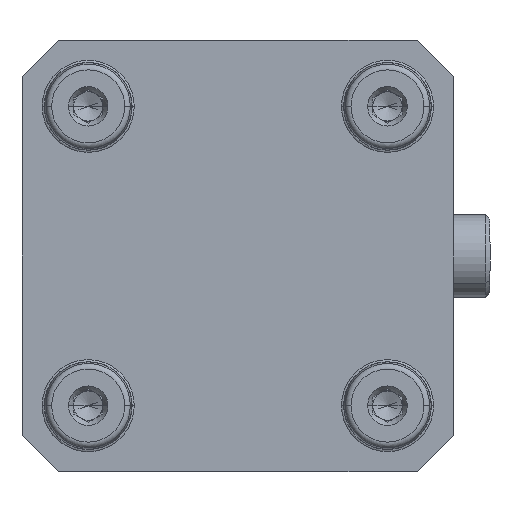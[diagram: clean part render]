
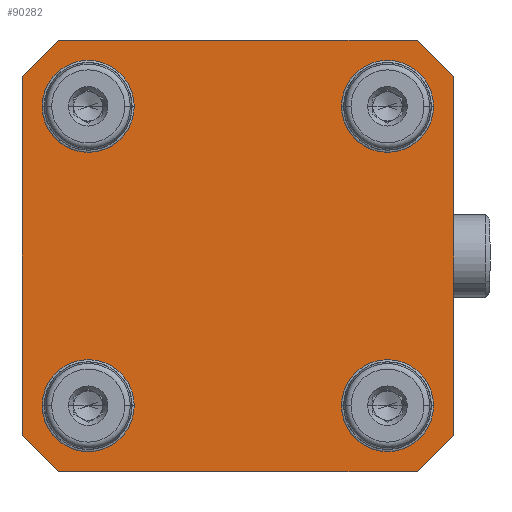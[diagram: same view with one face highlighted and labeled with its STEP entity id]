
A CAD part, front view. The second image highlights one B-rep face of the part: STEP entity #90282.
In plain terms, the highlighted planar face has unit normal (0, -1, 0).
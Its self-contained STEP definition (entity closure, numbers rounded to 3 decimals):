
#56 = DIRECTION ( 'NONE',  ( 0., -1., 0. ) ) ;
#138 = CARTESIAN_POINT ( 'NONE',  ( -26., 0., -26. ) ) ;
#335 = DIRECTION ( 'NONE',  ( 0., 0., -1. ) ) ;
#653 = DIRECTION ( 'NONE',  ( 0., 0., 1. ) ) ;
#880 = VERTEX_POINT ( 'NONE', #33809 ) ;
#2308 = VERTEX_POINT ( 'NONE', #96515 ) ;
#4460 = EDGE_LOOP ( 'NONE', ( #74586, #90434, #22073, #71335, #38619, #15399, #7901, #14046 ) ) ;
#5969 = VERTEX_POINT ( 'NONE', #38136 ) ;
#7633 = DIRECTION ( 'NONE',  ( 0., 0., 1. ) ) ;
#7901 = ORIENTED_EDGE ( 'NONE', *, *, #67377, .F. ) ;
#9006 = CARTESIAN_POINT ( 'NONE',  ( -26., 0., -19.992 ) ) ;
#9352 = EDGE_LOOP ( 'NONE', ( #61983, #37314 ) ) ;
#12214 = VECTOR ( 'NONE', #42350, 1000. ) ;
#13491 = CARTESIAN_POINT ( 'NONE',  ( 37.5, 0., 31.15 ) ) ;
#14046 = ORIENTED_EDGE ( 'NONE', *, *, #49599, .T. ) ;
#14072 = CARTESIAN_POINT ( 'NONE',  ( 26., 0., 19.992 ) ) ;
#14762 = CARTESIAN_POINT ( 'NONE',  ( -31.15, 0., 37.5 ) ) ;
#15399 = ORIENTED_EDGE ( 'NONE', *, *, #29493, .T. ) ;
#15785 = CIRCLE ( 'NONE', #19477, 6.008 ) ;
#17313 = CARTESIAN_POINT ( 'NONE',  ( 0., 0., 0. ) ) ;
#17466 = FACE_BOUND ( 'NONE', #9352, .T. ) ;
#17951 = EDGE_LOOP ( 'NONE', ( #39461, #65914 ) ) ;
#19039 = AXIS2_PLACEMENT_3D ( 'NONE', #36055, #88360, #43575 ) ;
#19477 = AXIS2_PLACEMENT_3D ( 'NONE', #89847, #45064, #335 ) ;
#19628 = LINE ( 'NONE', #70732, #57114 ) ;
#22073 = ORIENTED_EDGE ( 'NONE', *, *, #23344, .F. ) ;
#22362 = EDGE_CURVE ( 'NONE', #38292, #89508, #29958, .T. ) ;
#23344 = EDGE_CURVE ( 'NONE', #27074, #79555, #84633, .T. ) ;
#23470 = CARTESIAN_POINT ( 'NONE',  ( -34.325, 0., 34.325 ) ) ;
#25633 = LINE ( 'NONE', #36053, #45582 ) ;
#25804 = ORIENTED_EDGE ( 'NONE', *, *, #75267, .F. ) ;
#25886 = CIRCLE ( 'NONE', #51553, 6.008 ) ;
#25990 = LINE ( 'NONE', #36830, #45948 ) ;
#26570 = DIRECTION ( 'NONE',  ( 0., -1., 0. ) ) ;
#27074 = VERTEX_POINT ( 'NONE', #14762 ) ;
#27297 = VECTOR ( 'NONE', #87488, 1000. ) ;
#27867 = DIRECTION ( 'NONE',  ( 0., -1., 0. ) ) ;
#28582 = LINE ( 'NONE', #85003, #68450 ) ;
#28826 = DIRECTION ( 'NONE',  ( 0., -1., 0. ) ) ;
#29493 = EDGE_CURVE ( 'NONE', #72509, #46569, #25633, .T. ) ;
#29958 = CIRCLE ( 'NONE', #19039, 6.008 ) ;
#31488 = AXIS2_PLACEMENT_3D ( 'NONE', #72687, #27867, #80198 ) ;
#32086 = LINE ( 'NONE', #34829, #12214 ) ;
#32365 = CARTESIAN_POINT ( 'NONE',  ( -37.5, 0., 31.15 ) ) ;
#32654 = DIRECTION ( 'NONE',  ( 0., 0., -1. ) ) ;
#32708 = DIRECTION ( 'NONE',  ( 0., -1., 0. ) ) ;
#32769 = VECTOR ( 'NONE', #653, 1000. ) ;
#32995 = ORIENTED_EDGE ( 'NONE', *, *, #87081, .F. ) ;
#33587 = CARTESIAN_POINT ( 'NONE',  ( 37.5, 0., -31.15 ) ) ;
#33809 = CARTESIAN_POINT ( 'NONE',  ( 31.15, 0., -37.5 ) ) ;
#34829 = CARTESIAN_POINT ( 'NONE',  ( -37.5, 0., -37.5 ) ) ;
#35175 = CARTESIAN_POINT ( 'NONE',  ( -37.5, 0., 37.5 ) ) ;
#35763 = CARTESIAN_POINT ( 'NONE',  ( 26., 0., -19.992 ) ) ;
#36053 = CARTESIAN_POINT ( 'NONE',  ( -34.325, 0., -34.325 ) ) ;
#36055 = CARTESIAN_POINT ( 'NONE',  ( 26., 0., 26. ) ) ;
#36830 = CARTESIAN_POINT ( 'NONE',  ( 34.325, 0., 34.325 ) ) ;
#37314 = ORIENTED_EDGE ( 'NONE', *, *, #51006, .F. ) ;
#37377 = FACE_BOUND ( 'NONE', #50027, .T. ) ;
#37868 = CARTESIAN_POINT ( 'NONE',  ( -37.5, 0., 37.5 ) ) ;
#37990 = AXIS2_PLACEMENT_3D ( 'NONE', #138, #52384, #7633 ) ;
#38136 = CARTESIAN_POINT ( 'NONE',  ( 26., 0., -32.008 ) ) ;
#38292 = VERTEX_POINT ( 'NONE', #14072 ) ;
#38470 = VERTEX_POINT ( 'NONE', #32365 ) ;
#38619 = ORIENTED_EDGE ( 'NONE', *, *, #82436, .F. ) ;
#39461 = ORIENTED_EDGE ( 'NONE', *, *, #67062, .F. ) ;
#42350 = DIRECTION ( 'NONE',  ( -1., 0., 0. ) ) ;
#43575 = DIRECTION ( 'NONE',  ( 0., 0., 1. ) ) ;
#44784 = CARTESIAN_POINT ( 'NONE',  ( -26., 0., 26. ) ) ;
#45064 = DIRECTION ( 'NONE',  ( 0., -1., 0. ) ) ;
#45582 = VECTOR ( 'NONE', #80846, 1000. ) ;
#45948 = VECTOR ( 'NONE', #81625, 1000. ) ;
#46569 = VERTEX_POINT ( 'NONE', #46813 ) ;
#46813 = CARTESIAN_POINT ( 'NONE',  ( -31.15, 0., -37.5 ) ) ;
#47204 = CIRCLE ( 'NONE', #62733, 6.008 ) ;
#47763 = DIRECTION ( 'NONE',  ( 0.707, 0., 0.707 ) ) ;
#49599 = EDGE_CURVE ( 'NONE', #880, #50492, #28582, .T. ) ;
#49956 = CARTESIAN_POINT ( 'NONE',  ( -26., 0., 19.992 ) ) ;
#50027 = EDGE_LOOP ( 'NONE', ( #32995, #62927 ) ) ;
#50492 = VERTEX_POINT ( 'NONE', #33587 ) ;
#50514 = CIRCLE ( 'NONE', #31488, 6.008 ) ;
#50947 = EDGE_CURVE ( 'NONE', #87892, #2308, #50514, .T. ) ;
#51006 = EDGE_CURVE ( 'NONE', #84265, #5969, #25886, .T. ) ;
#51553 = AXIS2_PLACEMENT_3D ( 'NONE', #73667, #28826, #81184 ) ;
#52324 = DIRECTION ( 'NONE',  ( 0., 0., -1. ) ) ;
#52384 = DIRECTION ( 'NONE',  ( 0., -1., 0. ) ) ;
#52861 = CARTESIAN_POINT ( 'NONE',  ( 31.15, 0., 37.5 ) ) ;
#53260 = DIRECTION ( 'NONE',  ( -0.707, 0., -0.707 ) ) ;
#53575 = CIRCLE ( 'NONE', #84635, 6.008 ) ;
#54008 = AXIS2_PLACEMENT_3D ( 'NONE', #44784, #56, #52324 ) ;
#54292 = VERTEX_POINT ( 'NONE', #49956 ) ;
#54960 = FACE_OUTER_BOUND ( 'NONE', #4460, .T. ) ;
#57114 = VECTOR ( 'NONE', #63274, 1000. ) ;
#57681 = CIRCLE ( 'NONE', #54008, 6.008 ) ;
#60744 = CIRCLE ( 'NONE', #37990, 6.008 ) ;
#61141 = VERTEX_POINT ( 'NONE', #61307 ) ;
#61307 = CARTESIAN_POINT ( 'NONE',  ( -26., 0., 32.008 ) ) ;
#61983 = ORIENTED_EDGE ( 'NONE', *, *, #91658, .F. ) ;
#62733 = AXIS2_PLACEMENT_3D ( 'NONE', #77534, #32708, #85020 ) ;
#62927 = ORIENTED_EDGE ( 'NONE', *, *, #50947, .F. ) ;
#63274 = DIRECTION ( 'NONE',  ( 0., 0., -1. ) ) ;
#65635 = EDGE_LOOP ( 'NONE', ( #73268, #25804 ) ) ;
#65914 = ORIENTED_EDGE ( 'NONE', *, *, #75698, .F. ) ;
#67062 = EDGE_CURVE ( 'NONE', #54292, #61141, #15785, .T. ) ;
#67102 = EDGE_CURVE ( 'NONE', #27074, #38470, #73076, .T. ) ;
#67377 = EDGE_CURVE ( 'NONE', #880, #46569, #32086, .T. ) ;
#68450 = VECTOR ( 'NONE', #47763, 1000. ) ;
#68455 = VERTEX_POINT ( 'NONE', #13491 ) ;
#69629 = EDGE_CURVE ( 'NONE', #68455, #50492, #19628, .T. ) ;
#69945 = PLANE ( 'NONE',  #85795 ) ;
#70711 = VECTOR ( 'NONE', #53260, 1000. ) ;
#70732 = CARTESIAN_POINT ( 'NONE',  ( 37.5, 0., 37.5 ) ) ;
#71335 = ORIENTED_EDGE ( 'NONE', *, *, #67102, .T. ) ;
#71370 = CARTESIAN_POINT ( 'NONE',  ( 26., 0., -26. ) ) ;
#72509 = VERTEX_POINT ( 'NONE', #80957 ) ;
#72563 = LINE ( 'NONE', #37868, #32769 ) ;
#72687 = CARTESIAN_POINT ( 'NONE',  ( -26., 0., -26. ) ) ;
#73076 = LINE ( 'NONE', #23470, #70711 ) ;
#73268 = ORIENTED_EDGE ( 'NONE', *, *, #22362, .F. ) ;
#73667 = CARTESIAN_POINT ( 'NONE',  ( 26., 0., -26. ) ) ;
#74586 = ORIENTED_EDGE ( 'NONE', *, *, #69629, .F. ) ;
#74825 = FACE_BOUND ( 'NONE', #17951, .T. ) ;
#75267 = EDGE_CURVE ( 'NONE', #89508, #38292, #47204, .T. ) ;
#75698 = EDGE_CURVE ( 'NONE', #61141, #54292, #57681, .T. ) ;
#77473 = DIRECTION ( 'NONE',  ( 0., -1., 0. ) ) ;
#77534 = CARTESIAN_POINT ( 'NONE',  ( 26., 0., 26. ) ) ;
#78920 = DIRECTION ( 'NONE',  ( 0., 0., -1. ) ) ;
#79555 = VERTEX_POINT ( 'NONE', #52861 ) ;
#80198 = DIRECTION ( 'NONE',  ( 0., 0., 1. ) ) ;
#80846 = DIRECTION ( 'NONE',  ( 0.707, 0., -0.707 ) ) ;
#80957 = CARTESIAN_POINT ( 'NONE',  ( -37.5, 0., -31.15 ) ) ;
#81184 = DIRECTION ( 'NONE',  ( 0., 0., -1. ) ) ;
#81625 = DIRECTION ( 'NONE',  ( -0.707, 0., 0.707 ) ) ;
#82436 = EDGE_CURVE ( 'NONE', #72509, #38470, #72563, .T. ) ;
#84265 = VERTEX_POINT ( 'NONE', #35763 ) ;
#84633 = LINE ( 'NONE', #35175, #27297 ) ;
#84635 = AXIS2_PLACEMENT_3D ( 'NONE', #71370, #26570, #78920 ) ;
#85003 = CARTESIAN_POINT ( 'NONE',  ( 34.325, 0., -34.325 ) ) ;
#85020 = DIRECTION ( 'NONE',  ( 0., 0., 1. ) ) ;
#85795 = AXIS2_PLACEMENT_3D ( 'NONE', #17313, #77473, #32654 ) ;
#87081 = EDGE_CURVE ( 'NONE', #2308, #87892, #60744, .T. ) ;
#87488 = DIRECTION ( 'NONE',  ( 1., 0., 0. ) ) ;
#87892 = VERTEX_POINT ( 'NONE', #9006 ) ;
#88360 = DIRECTION ( 'NONE',  ( 0., -1., 0. ) ) ;
#89508 = VERTEX_POINT ( 'NONE', #96252 ) ;
#89847 = CARTESIAN_POINT ( 'NONE',  ( -26., 0., 26. ) ) ;
#90282 = ADVANCED_FACE ( 'NONE', ( #37377, #17466, #94689, #74825, #54960 ), #69945, .T. ) ;
#90434 = ORIENTED_EDGE ( 'NONE', *, *, #94774, .T. ) ;
#91658 = EDGE_CURVE ( 'NONE', #5969, #84265, #53575, .T. ) ;
#94689 = FACE_BOUND ( 'NONE', #65635, .T. ) ;
#94774 = EDGE_CURVE ( 'NONE', #68455, #79555, #25990, .T. ) ;
#96252 = CARTESIAN_POINT ( 'NONE',  ( 26., 0., 32.008 ) ) ;
#96515 = CARTESIAN_POINT ( 'NONE',  ( -26., 0., -32.008 ) ) ;
